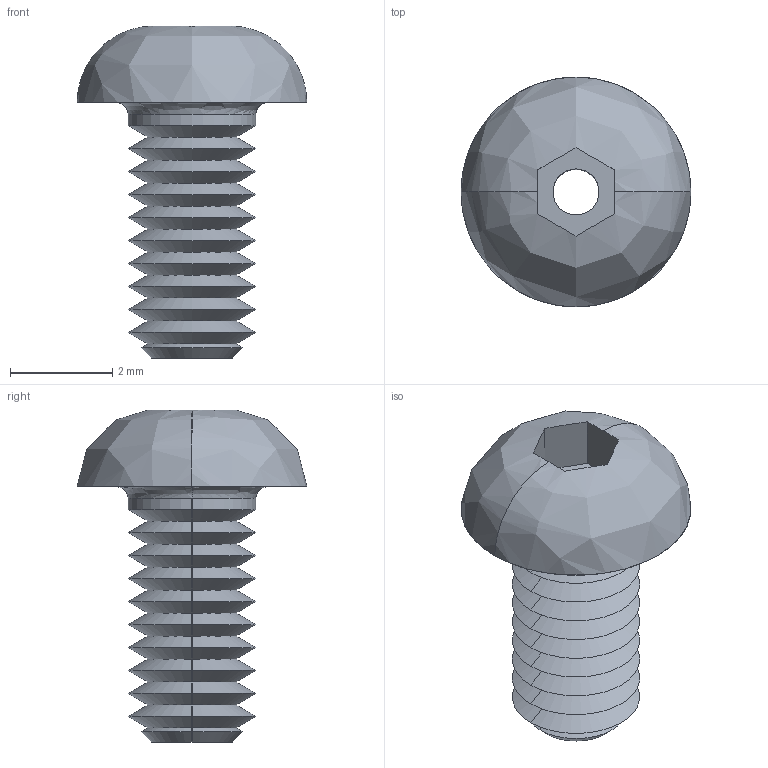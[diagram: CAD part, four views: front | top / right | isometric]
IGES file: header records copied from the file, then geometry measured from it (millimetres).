
Start section: SolidWorks IGES file using analytic representation for surfaces
Global section: file name: C:\Users\liam_\OneDrive\Documents\WORK\Work for WixRoyd\Job Files\J-00019 - Matt Davis CAD Checking\04. CAD Drawings\automotion20190605\P0094_v2\P0094_v2_20190712_IGES\P0094.025-005-A2.igs; native system: SolidWorks 2017; preprocessor: SolidWorks 2017; author: liam_; date: 190712.175014; units: millimetre
Bounding box: 4.5 x 4.5 x 6.5 mm (x, y, z)
Surface area: 121.5 mm2 (no closed solid volume)
Topology: 0 solids, 0 shells, 59 faces, 382 edges, 382 vertices
Faces by surface type: revolution 46, bspline 13
